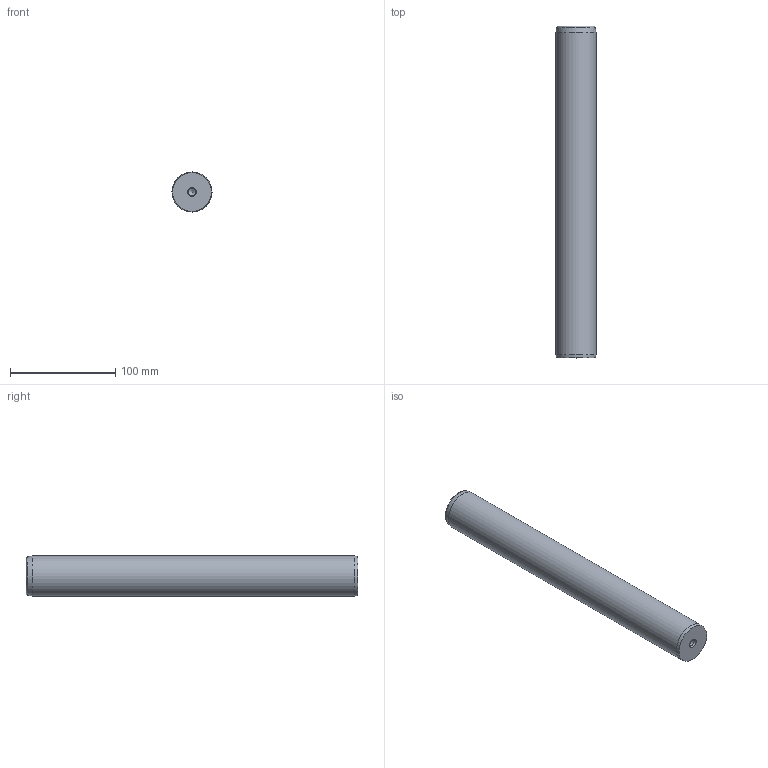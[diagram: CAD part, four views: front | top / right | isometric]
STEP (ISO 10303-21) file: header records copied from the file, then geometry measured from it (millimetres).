
FILE_DESCRIPTION( ( 'STEP AP203' ), '1' );
FILE_NAME( 'D:/Cuma/D14/D14_38315.step', '2003-01-18T23:18:27', ( ' ' ), ( ' ' ), 'XStep 1.0', ' ', ' ' );
FILE_SCHEMA( ( 'CONFIG_CONTROL_DESIGN' ) );
Length unit declared in the file: metre
Products named in the file (1): 1
Bounding box: 38 x 315 x 38 mm (x, y, z)
Volume: 354839.3 mm3; surface area: 40743.4 mm2
Topology: 1 solids, 1 shells, 14 faces, 29 edges, 17 vertices
Faces by surface type: cone 6, cylinder 5, plane 2, torus 1
Full cylindrical faces by diameter (mm): 6.75 x4, 38 x1
Entity records: 327 total; most frequent: DIRECTION 56, CARTESIAN_POINT 43, AXIS2_PLACEMENT_3D 28, EDGE_LOOP 26, ORIENTED_EDGE 26, FACE_OUTER_BOUND 20, VERTEX_POINT 15, ADVANCED_FACE 14
